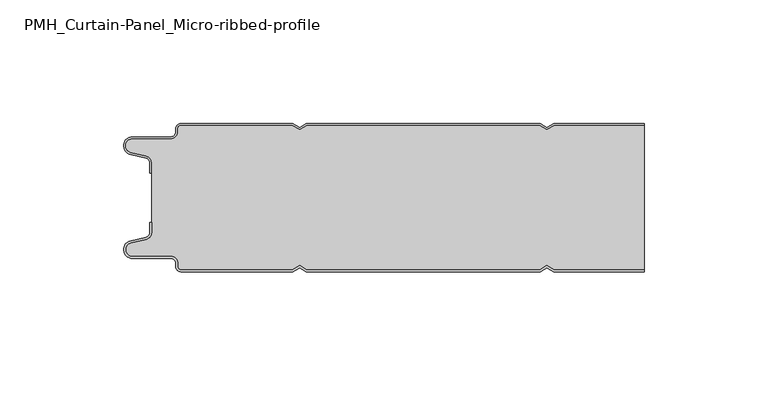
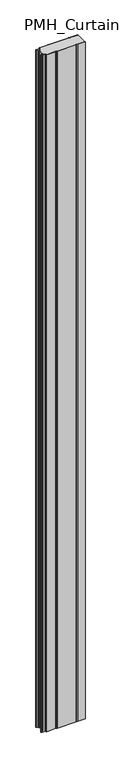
"""IFC4 building model written with IfcOpenShell, lengths in millimetres: plate geometry, PMH_Curtain-Panel_Micro-ribbed-profile : ACH_PMH_Acoustic-Sectioning-Panel_60M."""

from ifc_helpers import new_model, si_unit, point, frame_2d, origin, origin_with_axes, place, context, project, spatial, polyline, circle_curve, trimmed, segment, composite_curve, outline, extrude, source, transform, mapped, element, save


def pmh_curtain_panel_micro_ribbed_profile_525450b6(model_context):
    return source(origin(), model_context, "Body", "SweptSolid", [
        extrude(outline(composite_curve([segment(polyline([(-100.0, 15.878557), (-100.0, 20.0), (-99.2, 20.0), (-99.2, 15.878557)]), True, "CONTINUOUS"), segment(trimmed(circle_curve(frame_2d((-102.0, 15.878557)), 2.8), [point((-99.2, 15.878557))], [point((-101.370137, 13.1503208))], False, "CARTESIAN"), True, "CONTINUOUS"), segment(polyline([(-101.370137, 13.1503208), (-107.529863, 11.728236)]), True, "CONTINUOUS"), segment(trimmed(circle_curve(frame_2d((-106.9, 9.0)), 2.8), [point((-107.529863, 11.728236))], [point((-106.9, 6.2))], True, "CARTESIAN"), True, "CONTINUOUS"), segment(polyline([(-106.9, 6.2), (-91.4, 6.2)]), True, "CONTINUOUS"), segment(trimmed(circle_curve(frame_2d((-91.4, 3.4)), 2.8), [point((-91.4, 6.2))], [point((-88.6, 3.4))], False, "CARTESIAN"), True, "CONTINUOUS"), segment(polyline([(-88.6, 3.4), (-88.6, 2.0)]), True, "CONTINUOUS"), segment(trimmed(circle_curve(frame_2d((-87.4, 2.0)), 1.2), [point((-88.6, 2.0))], [point((-87.4, 0.8))], True, "CARTESIAN"), True, "CONTINUOUS"), segment(polyline([(-87.4, 0.8), (-42.3143588, 0.8), (-39.4, 2.482606), (-36.4856412, 0.8), (57.6856412, 0.8), (60.6, 2.482606), (63.5143588, 0.8), (100.0, 0.8), (100.0, 0.0), (63.2999995, 0.0), (60.6, 1.5588455), (57.9000005, 0.0), (-36.7000005, 0.0), (-39.4, 1.5588455), (-42.0999995, 0.0), (-87.4, 0.0)]), True, "CONTINUOUS"), segment(trimmed(circle_curve(frame_2d((-87.4, 2.0)), 2.0), [point((-87.4, 0.0))], [point((-89.4, 2.0))], False, "CARTESIAN"), True, "CONTINUOUS"), segment(polyline([(-89.4, 2.0), (-89.4, 3.4)]), True, "CONTINUOUS"), segment(trimmed(circle_curve(frame_2d((-91.4, 3.4)), 2.0), [point((-89.4, 3.4))], [point((-91.4, 5.4))], True, "CARTESIAN"), True, "CONTINUOUS"), segment(polyline([(-91.4, 5.4), (-106.9, 5.4)]), True, "CONTINUOUS"), segment(trimmed(circle_curve(frame_2d((-106.9, 9.0)), 3.6), [point((-106.9, 5.4))], [point((-107.7098239, 12.5077322))], False, "CARTESIAN"), True, "CONTINUOUS"), segment(polyline([(-107.7098239, 12.5077322), (-101.5500979, 13.929817)]), True, "CONTINUOUS"), segment(trimmed(circle_curve(frame_2d((-102.0, 15.878557)), 2.0), [point((-101.5500979, 13.929817))], [point((-100.0, 15.878557))], True, "CARTESIAN"), True, "CONTINUOUS")], self_intersect=False)), origin_with_axes(), (0.0, 0.0, 1.0), 3500.0),
        extrude(outline(composite_curve([segment(trimmed(circle_curve(frame_2d((-102.0, 44.1214426)), 2.8), [point((-99.2, 44.1214426))], [point((-101.370137, 46.8496788))], True, "CARTESIAN"), True, "CONTINUOUS"), segment(polyline([(-101.370137, 46.8496788), (-107.5298631, 48.2717638)]), True, "CONTINUOUS"), segment(trimmed(circle_curve(frame_2d((-106.9, 51.0)), 2.8), [point((-107.5298631, 48.2717638))], [point((-106.9, 53.8))], False, "CARTESIAN"), True, "CONTINUOUS"), segment(polyline([(-106.9, 53.8), (-91.4000001, 53.8)]), True, "CONTINUOUS"), segment(trimmed(circle_curve(frame_2d((-91.4000001, 56.6)), 2.8), [point((-91.4000001, 53.8))], [point((-88.6000001, 56.6))], True, "CARTESIAN"), True, "CONTINUOUS"), segment(polyline([(-88.6000001, 56.6), (-88.6000001, 58.0)]), True, "CONTINUOUS"), segment(trimmed(circle_curve(frame_2d((-87.4000001, 58.0)), 1.2), [point((-88.6000001, 58.0))], [point((-87.4000001, 59.2))], False, "CARTESIAN"), True, "CONTINUOUS"), segment(polyline([(-87.4000001, 59.2), (-42.3143589, 59.2), (-39.4000001, 57.517394), (-36.4856412, 59.2), (57.6856411, 59.2), (60.5999999, 57.517394), (63.5143588, 59.2), (100.0, 59.2), (100.0, 0.8), (63.5143588, 0.8), (60.5999999, 2.482606), (57.6856411, 0.8), (-36.4856412, 0.8), (-39.4000001, 2.482606), (-42.3143589, 0.8), (-87.4000001, 0.8)]), True, "CONTINUOUS"), segment(trimmed(circle_curve(frame_2d((-87.4000001, 2.0)), 1.2), [point((-87.4000001, 0.8))], [point((-88.6000001, 2.0))], False, "CARTESIAN"), True, "CONTINUOUS"), segment(polyline([(-88.6000001, 2.0), (-88.6000001, 3.4)]), True, "CONTINUOUS"), segment(trimmed(circle_curve(frame_2d((-91.4000001, 3.4)), 2.8), [point((-88.6000001, 3.4))], [point((-91.4000001, 6.2))], True, "CARTESIAN"), True, "CONTINUOUS"), segment(polyline([(-91.4000001, 6.2), (-106.9, 6.2)]), True, "CONTINUOUS"), segment(trimmed(circle_curve(frame_2d((-106.9, 9.0)), 2.8), [point((-106.9, 6.2))], [point((-107.5298631, 11.7282362))], False, "CARTESIAN"), True, "CONTINUOUS"), segment(polyline([(-107.5298631, 11.7282362), (-101.370137, 13.1503212)]), True, "CONTINUOUS"), segment(trimmed(circle_curve(frame_2d((-102.0, 15.8785573)), 2.8), [point((-101.370137, 13.1503212))], [point((-99.2, 15.8785573))], True, "CARTESIAN"), True, "CONTINUOUS"), segment(polyline([(-99.2, 15.8785573), (-99.2, 44.1214426)]), True, "CONTINUOUS")], self_intersect=False)), origin_with_axes(), (0.0, 0.0, 1.0), 3500.0),
        extrude(outline(composite_curve([segment(trimmed(circle_curve(frame_2d((-102.0, 44.121443)), 2.0), [point((-100.0, 44.121443))], [point((-101.5500978, 46.0701831))], True, "CARTESIAN"), True, "CONTINUOUS"), segment(polyline([(-101.5500978, 46.0701831), (-107.7098239, 47.492268)]), True, "CONTINUOUS"), segment(trimmed(circle_curve(frame_2d((-106.9, 51.0)), 3.6), [point((-107.7098239, 47.492268))], [point((-106.9, 54.6))], False, "CARTESIAN"), True, "CONTINUOUS"), segment(polyline([(-106.9, 54.6), (-91.4, 54.6)]), True, "CONTINUOUS"), segment(trimmed(circle_curve(frame_2d((-91.4, 56.6)), 2.0), [point((-91.4, 54.6))], [point((-89.4, 56.6))], True, "CARTESIAN"), True, "CONTINUOUS"), segment(polyline([(-89.4, 56.6), (-89.4, 58.0)]), True, "CONTINUOUS"), segment(trimmed(circle_curve(frame_2d((-87.4, 58.0)), 2.0), [point((-89.4, 58.0))], [point((-87.4, 60.0))], False, "CARTESIAN"), True, "CONTINUOUS"), segment(polyline([(-87.4, 60.0), (-42.0999995, 60.0), (-39.4, 58.4411545), (-36.7000005, 60.0), (57.9000005, 60.0), (60.6, 58.4411545), (63.2999995, 60.0), (100.0, 60.0), (100.0, 59.2), (63.5143588, 59.2), (60.6, 57.517394), (57.6856412, 59.2), (-36.4856412, 59.2), (-39.4, 57.517394), (-42.3143588, 59.2), (-87.4, 59.2)]), True, "CONTINUOUS"), segment(trimmed(circle_curve(frame_2d((-87.4, 58.0)), 1.2), [point((-87.4, 59.2))], [point((-88.6, 58.0))], True, "CARTESIAN"), True, "CONTINUOUS"), segment(polyline([(-88.6, 58.0), (-88.6, 56.6)]), True, "CONTINUOUS"), segment(trimmed(circle_curve(frame_2d((-91.4, 56.6)), 2.8), [point((-88.6, 56.6))], [point((-91.4, 53.8))], False, "CARTESIAN"), True, "CONTINUOUS"), segment(polyline([(-91.4, 53.8), (-106.9, 53.8)]), True, "CONTINUOUS"), segment(trimmed(circle_curve(frame_2d((-106.9, 51.0)), 2.8), [point((-106.9, 53.8))], [point((-107.529863, 48.2717638))], True, "CARTESIAN"), True, "CONTINUOUS"), segment(polyline([(-107.529863, 48.2717638), (-101.370137, 46.849679)]), True, "CONTINUOUS"), segment(trimmed(circle_curve(frame_2d((-102.0, 44.121443)), 2.8), [point((-101.370137, 46.849679))], [point((-99.2, 44.121443))], False, "CARTESIAN"), True, "CONTINUOUS"), segment(polyline([(-99.2, 44.121443), (-99.2, 40.0), (-100.0, 40.0), (-100.0, 44.121443)]), True, "CONTINUOUS")], self_intersect=False)), origin_with_axes(), (0.0, 0.0, 1.0), 3500.0),
    ])


if __name__ == "__main__":
    model = new_model("IFC4")
    model_context = context("Model", 3, world=origin())
    ifc_project = project(units=[si_unit("LENGTHUNIT", "METRE", prefix="MILLI")], contexts=[model_context])
    site = spatial("IfcSite", under=ifc_project)
    building = spatial("IfcBuilding", under=site)
    placement = place(None, origin())
    pmh_curtain_panel_micro_ribbed_profile_shape = pmh_curtain_panel_micro_ribbed_profile_525450b6(model_context)
    element("IfcPlate", 1, ObjectType="PMH_Curtain-Panel_Micro-ribbed-profile : ACH_PMH_Acoustic-Sectioning-Panel_60M", at=placement, inside=building, context=model_context, shape_type="MappedRepresentation", body=[
        mapped(pmh_curtain_panel_micro_ribbed_profile_shape, transform((0.0, 0.0, 0.0), x_axis=(1.0, 0.0, 0.0), y_axis=(0.0, 1.0, 0.0), z_axis=(0.0, 0.0, 1.0))),
    ])
    save(model, "model.ifc")
